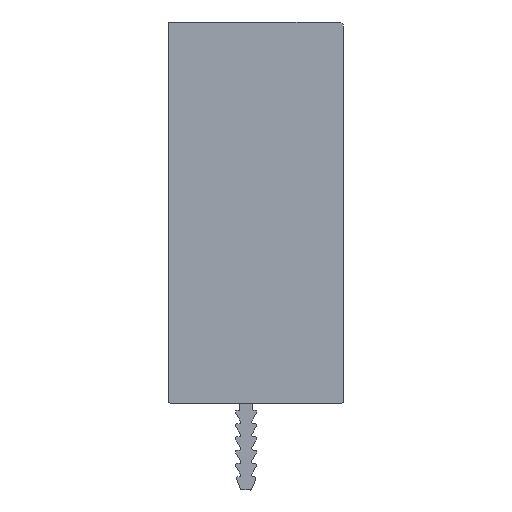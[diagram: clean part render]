
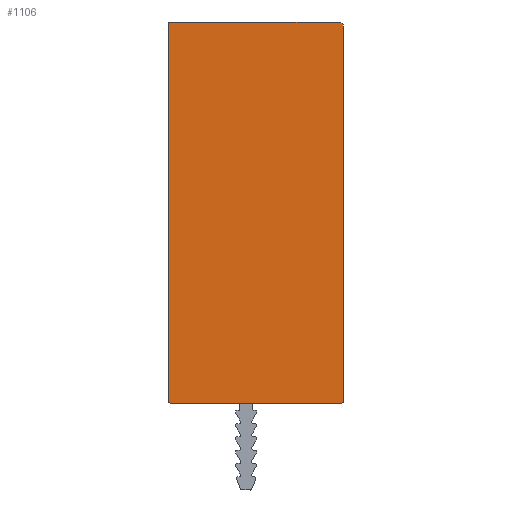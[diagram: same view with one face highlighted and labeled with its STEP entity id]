
A CAD part, left-side view. The second image highlights one B-rep face of the part: STEP entity #1106.
In plain terms, the highlighted planar face has unit normal (-1, 0, 0).
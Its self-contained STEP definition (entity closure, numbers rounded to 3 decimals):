
#640 = EDGE_CURVE( '', #1394, #1496, #1863, .T. );
#662 = EDGE_CURVE( '', #806, #902, #1885, .T. );
#720 = EDGE_CURVE( '', #980, #1662, #1952, .T. );
#806 = VERTEX_POINT( '', #2047 );
#902 = VERTEX_POINT( '', #2150 );
#980 = VERTEX_POINT( '', #2237 );
#1106 = ADVANCED_FACE( '', ( #2370 ), #2371, .F. );
#1184 = EDGE_CURVE( '', #1496, #806, #2457, .T. );
#1190 = EDGE_CURVE( '', #1308, #980, #2464, .T. );
#1266 = EDGE_CURVE( '', #902, #1308, #2544, .T. );
#1308 = VERTEX_POINT( '', #2590 );
#1394 = VERTEX_POINT( '', #2684 );
#1398 = EDGE_CURVE( '', #1662, #1700, #2688, .T. );
#1496 = VERTEX_POINT( '', #2793 );
#1662 = VERTEX_POINT( '', #2972 );
#1700 = VERTEX_POINT( '', #3012 );
#1740 = EDGE_CURVE( '', #1700, #1394, #3058, .T. );
#1863 = LINE( '', #3185, #3186 );
#1885 = LINE( '', #3218, #3219 );
#1952 = CIRCLE( '', #3309, 0.2 );
#2047 = CARTESIAN_POINT( '', ( 0., -11.75, 44. ) );
#2150 = CARTESIAN_POINT( '', ( 0., -11.75, -1.3 ) );
#2237 = CARTESIAN_POINT( '', ( 0., 9.15, -1.5 ) );
#2370 = FACE_OUTER_BOUND( '', #3882, .T. );
#2371 = PLANE( '', #3883 );
#2457 = CIRCLE( '', #4006, 0.5 );
#2464 = LINE( '', #4014, #4015 );
#2544 = CIRCLE( '', #4131, 0.2 );
#2590 = CARTESIAN_POINT( '', ( 0., -11.55, -1.5 ) );
#2684 = CARTESIAN_POINT( '', ( 0., 9.15, 44.5 ) );
#2688 = LINE( '', #4318, #4319 );
#2793 = CARTESIAN_POINT( '', ( 0., -11.25, 44.5 ) );
#2972 = CARTESIAN_POINT( '', ( 0., 9.35, -1.3 ) );
#3012 = CARTESIAN_POINT( '', ( 0., 9.35, 44.3 ) );
#3058 = CIRCLE( '', #4834, 0.2 );
#3185 = CARTESIAN_POINT( '', ( 0., 9.15, 44.5 ) );
#3186 = VECTOR( '', #4986, 1. );
#3218 = CARTESIAN_POINT( '', ( 0., -11.75, 44. ) );
#3219 = VECTOR( '', #4994, 1. );
#3309 = AXIS2_PLACEMENT_3D( '', #5088, #5089, #5090 );
#3882 = EDGE_LOOP( '', ( #5650, #5651, #5652, #5653, #5654, #5655, #5656, #5657 ) );
#3883 = AXIS2_PLACEMENT_3D( '', #5658, #5659, #5660 );
#4006 = AXIS2_PLACEMENT_3D( '', #5776, #5777, #5778 );
#4014 = CARTESIAN_POINT( '', ( 0., -11.55, -1.5 ) );
#4015 = VECTOR( '', #5787, 1. );
#4131 = AXIS2_PLACEMENT_3D( '', #5865, #5866, #5867 );
#4318 = CARTESIAN_POINT( '', ( 0., 9.35, -1.3 ) );
#4319 = VECTOR( '', #6000, 1. );
#4834 = AXIS2_PLACEMENT_3D( '', #6401, #6402, #6403 );
#4986 = DIRECTION( '', ( 0., -1., 0. ) );
#4994 = DIRECTION( '', ( 0., 0., -1. ) );
#5088 = CARTESIAN_POINT( '', ( 0., 9.15, -1.3 ) );
#5089 = DIRECTION( '', ( 1., 0., 0. ) );
#5090 = DIRECTION( '', ( 0., 0., -1. ) );
#5650 = ORIENTED_EDGE( '', *, *, #1184, .F. );
#5651 = ORIENTED_EDGE( '', *, *, #640, .F. );
#5652 = ORIENTED_EDGE( '', *, *, #1740, .F. );
#5653 = ORIENTED_EDGE( '', *, *, #1398, .F. );
#5654 = ORIENTED_EDGE( '', *, *, #720, .F. );
#5655 = ORIENTED_EDGE( '', *, *, #1190, .F. );
#5656 = ORIENTED_EDGE( '', *, *, #1266, .F. );
#5657 = ORIENTED_EDGE( '', *, *, #662, .F. );
#5658 = CARTESIAN_POINT( '', ( 0., 0., 0. ) );
#5659 = DIRECTION( '', ( 1., 0., 0. ) );
#5660 = DIRECTION( '', ( 0., 0., -1. ) );
#5776 = CARTESIAN_POINT( '', ( 0., -11.25, 44. ) );
#5777 = DIRECTION( '', ( 1., 0., 0. ) );
#5778 = DIRECTION( '', ( 0., 0., 1. ) );
#5787 = DIRECTION( '', ( 0., 1., 0. ) );
#5865 = CARTESIAN_POINT( '', ( 0., -11.55, -1.3 ) );
#5866 = DIRECTION( '', ( 1., 0., 0. ) );
#5867 = DIRECTION( '', ( 0., -1., 0. ) );
#6000 = DIRECTION( '', ( 0., 0., 1. ) );
#6401 = CARTESIAN_POINT( '', ( 0., 9.15, 44.3 ) );
#6402 = DIRECTION( '', ( 1., 0., 0. ) );
#6403 = DIRECTION( '', ( 0., 1., 0. ) );
